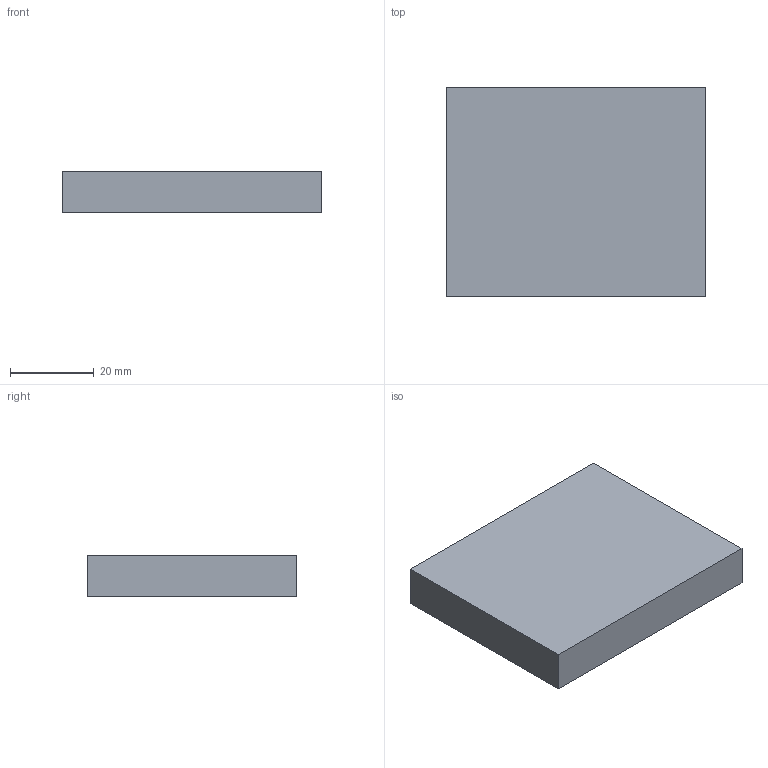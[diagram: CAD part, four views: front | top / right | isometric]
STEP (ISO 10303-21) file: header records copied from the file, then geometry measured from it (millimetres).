
FILE_DESCRIPTION (( 'STEP AP214' ), '1' );
FILE_NAME ('Platine.STEP', '2016-03-04T08:03:04', ( '' ), ( '' ), 'SwSTEP 2.0', 'SolidWorks 2014', '' );
FILE_SCHEMA (( 'AUTOMOTIVE_DESIGN' ));
Length unit declared in the file: millimetre
Products named in the file (1): Platine
Bounding box: 62 x 50 x 10 mm (x, y, z)
Volume: 31000 mm3; surface area: 8440 mm2
Topology: 1 solids, 1 shells, 6 faces, 12 edges, 8 vertices
Faces by surface type: plane 6
Entity records: 190 total; most frequent: CARTESIAN_POINT 27, DIRECTION 26, ORIENTED_EDGE 24, LINE 12, VECTOR 12, EDGE_CURVE 12, VERTEX_POINT 8, AXIS2_PLACEMENT_3D 7
